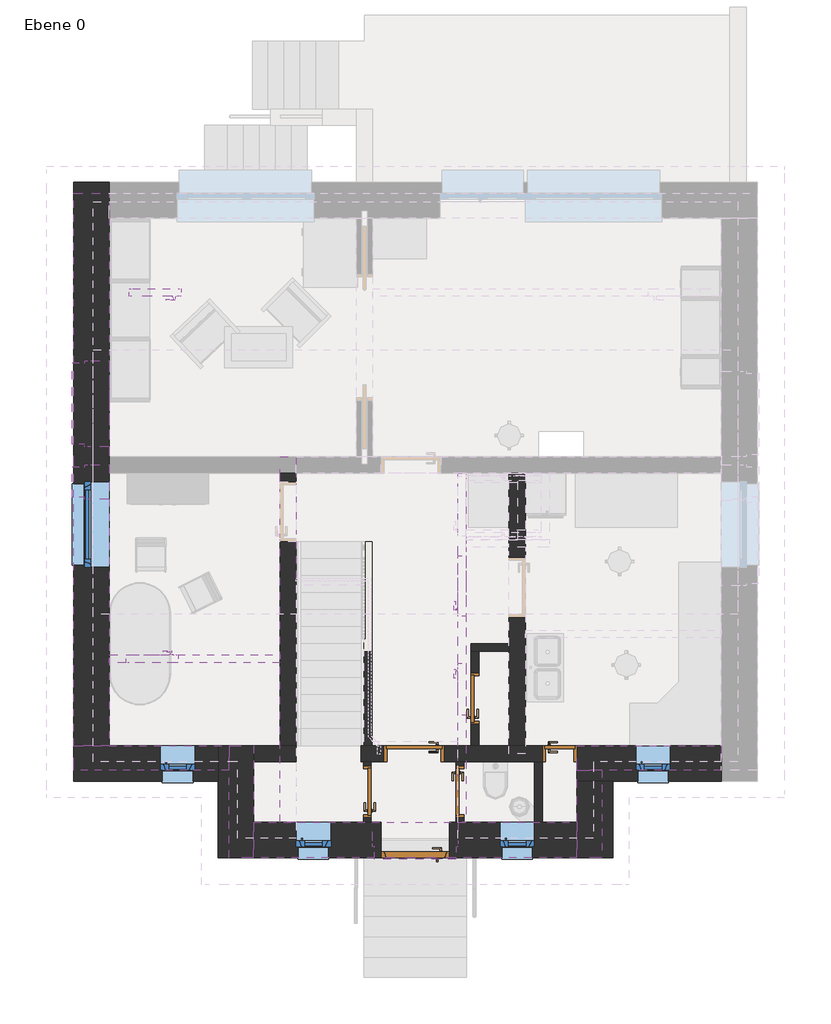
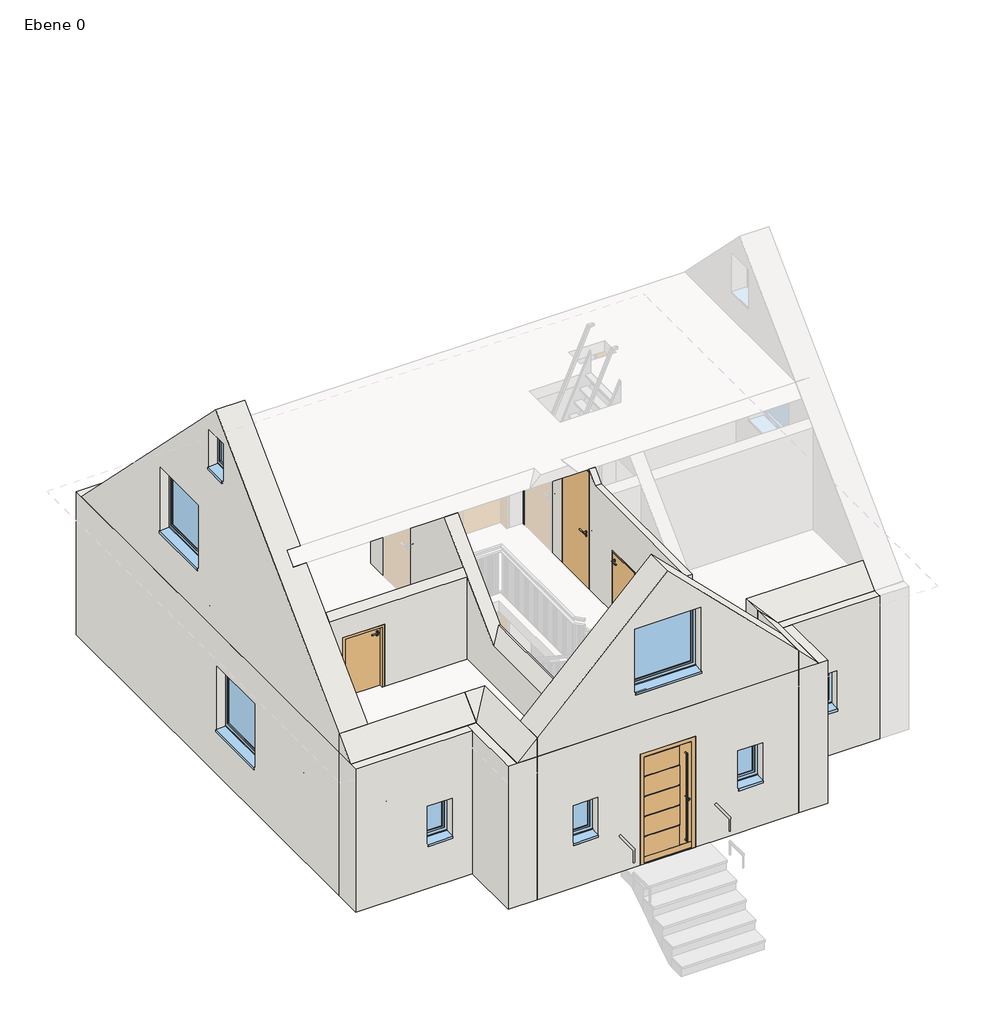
# One storey, part 1 of 3: 25 walls, 10 doors, 8 windows.
"""IFC4 building model written with IfcOpenShell, lengths in millimetres."""

from ifc_helpers import new_model, si_unit, frame, origin, place, context, project, spatial, polyline, outline, extrude, faceted_brep, transform, mapped, element, save
from components import door_d76ddd33, door_2d55e884, door_c0c9e2e8, door_1d4fa7a0, door_ae18e9e7, ml_1010_x_2135_97191e1a, ml_510_x_2137_2d006b58, ml_760_x_1200_513c8107, ml_760_x_1200_4ba6731c, fe_1_tlg_drehkipp_1260_x_1260_6cbcbbed, fe_1_tlg_drehkipp_510_x_760_2ecf23b0

model = new_model("IFC4")

# Units and contexts
model_context = context("Model", 3, world=origin())
ifc_project = project(units=[si_unit("LENGTHUNIT", "METRE", prefix="MILLI")], contexts=[model_context])

# Site, building, storey
site = spatial("IfcSite", under=ifc_project)
building = spatial("IfcBuilding", under=site)
storey = spatial("IfcBuildingStorey", under=building, Name="Ebene 0", Elevation=1000.0)

# Doors
placement = place(None, origin())
door_shape = door_d76ddd33(model_context)
element("IfcDoor", 1, ObjectType="TU DF 1 - Rahmenstock flächenbündig variabel : ML - H - 885 x 2260", at=placement, inside=storey, context=model_context, shape_type="MappedRepresentation", body=[
    mapped(door_shape, transform((3622.5, 2182.5, 1000.0), x_axis=(0.0, 1.0, 0.0), y_axis=(-1.0, 0.0, 0.0), z_axis=(0.0, 0.0, 1.0))),
])
door_2_shape = door_2d55e884(model_context)
element("IfcDoor", 2, ObjectType="TU DF 1 - Rahmenstock flächenbündig variabel : ML - H - 885 x 2260", at=placement, inside=storey, context=model_context, shape_type="MappedRepresentation", body=[
    mapped(door_2_shape, transform((3402.5, 811.4208156, 1000.0), x_axis=(0.0, -1.0, 0.0), y_axis=(1.0, 0.0, 0.0), z_axis=(0.0, 0.0, 1.0))),
])
door_3_shape = door_c0c9e2e8(model_context)
element("IfcDoor", 3, ObjectType="TU DF 1 - Rahmenstock flächenbündig variabel : ML - H - 885 x 2260", at=placement, inside=storey, context=model_context, shape_type="MappedRepresentation", body=[
    mapped(door_3_shape, transform((3432.5, 3837.5, 3750.0), x_axis=(0.0, 1.0, 0.0), y_axis=(-1.0, 0.0, 0.0), z_axis=(0.0, 0.0, 1.0))),
])
door_4_shape = door_1d4fa7a0(model_context)
element("IfcDoor", 4, ObjectType="TU DF 1 - Rahmenstock flächenbündig variabel : ML - H - 885 x 2010", at=placement, inside=storey, context=model_context, shape_type="MappedRepresentation", body=[
    mapped(door_4_shape, transform((2037.5, 811.4208156, 1000.0), x_axis=(0.0, 1.0, 0.0), y_axis=(-1.0, 0.0, 0.0), z_axis=(0.0, 0.0, 1.0))),
])
door_5_shape = door_ae18e9e7(model_context)
element("IfcDoor", 5, ObjectType="TU DF 1 - Rahmenstock flächenbündig variabel : ML - H - 885 x 2010", at=placement, inside=storey, context=model_context, shape_type="MappedRepresentation", body=[
    mapped(door_5_shape, transform((2725.0, 1370.0, 1000.0), x_axis=(-1.0, 0.0, 0.0), y_axis=(0.0, -1.0, 0.0), z_axis=(0.0, 0.0, 1.0))),
])
ml_1010_x_2135_shape = ml_1010_x_2135_97191e1a(model_context)
element("IfcDoor", 6, ObjectType="TU DF 1 - Haustüre : ML - 1010 x 2135", at=placement, inside=storey, context=model_context, shape_type="MappedRepresentation", body=[
    mapped(ml_1010_x_2135_shape, transform((2745.0, 102.5, 1000.0), x_axis=(1.0, 0.0, 0.0), y_axis=(0.0, 1.0, 0.0), z_axis=(0.0, 0.0, 1.0))),
])
ml_510_x_2137_shape = ml_510_x_2137_2d006b58(model_context)
element("IfcDoor", 7, ObjectType="TU DF 1 - Rahmenstock flächenbündig : ML -510 x 2137", at=placement, inside=storey, context=model_context, shape_type="MappedRepresentation", body=[
    mapped(ml_510_x_2137_shape, transform((4870.0, 1370.0, 1000.0), x_axis=(1.0, 0.0, 0.0), y_axis=(0.0, 1.0, 0.0), z_axis=(0.0, 0.0, 1.0))),
])
ml_760_x_1200_shape = ml_760_x_1200_513c8107(model_context)
element("IfcDoor", 8, ObjectType="TU DF 1 - Rahmenstock flächenbündig : ML -760 x 1200", at=placement, inside=storey, context=model_context, shape_type="MappedRepresentation", body=[
    mapped(ml_760_x_1200_shape, transform((-1130.0, 2767.5, 3750.0), x_axis=(-1.0, 0.0, 0.0), y_axis=(0.0, -1.0, 0.0), z_axis=(0.0, 0.0, 1.0))),
])
element("IfcDoor", 9, ObjectType="TU DF 1 - Rahmenstock flächenbündig : ML -760 x 1200", at=placement, inside=storey, context=model_context, shape_type="MappedRepresentation", body=[
    mapped(ml_760_x_1200_shape, transform((3432.5, 2320.0, 3750.0), x_axis=(0.0, -1.0, 0.0), y_axis=(1.0, 0.0, 0.0), z_axis=(0.0, 0.0, 1.0))),
])
ml_760_x_1200_2_shape = ml_760_x_1200_4ba6731c(model_context)
element("IfcDoor", 10, ObjectType="TU DF 1 - Rahmenstock flächenbündig : ML -760 x 1200", at=placement, inside=storey, context=model_context, shape_type="MappedRepresentation", body=[
    mapped(ml_760_x_1200_2_shape, transform((-1085.0, 8157.5, 3750.0), x_axis=(-1.0, 0.0, 0.0), y_axis=(0.0, -1.0, 0.0), z_axis=(0.0, 0.0, 1.0))),
])

# Walls
element("IfcWall", 11, ObjectType="Ziegel+WD hart 365+140+2", at=placement, inside=storey, context=model_context, shape_type="Brep", body=[
    faceted_brep([(365.0, -160.0, 1000.0), (365.0, 365.0, 1000.0), (365.0, 1250.0, 1000.0), (365.0, 1490.0, 1000.0), (365.0, 1490.0, 3550.0), (365.0, 1250.0, 3550.0), (365.0, 365.0, 3550.0), (365.0, 125.0, 3550.0), (365.0, 125.0, 3750.0), (365.0, -160.0, 3750.0), (-160.0, 1490.0, 1000.0), (-160.0, 965.0, 1000.0), (-160.0, -160.0, 1000.0), (-160.0, -160.0, 3750.0), (-160.0, 965.0, 3750.0), (-160.0, 1250.0, 3750.0), (-160.0, 1250.0, 3550.0), (-160.0, 1490.0, 3550.0), (125.0, 125.0, 3750.0), (125.0, 1250.0, 3750.0), (125.0, 1250.0, 3550.0), (125.0, 125.0, 3550.0)], [[[0, 1, 2, 3, 4, 5, 6, 7, 8, 9]], [[10, 11, 12, 13, 14, 15, 16, 17]], [[3, 2, 1, 0, 12, 11, 10]], [[13, 9, 8, 18, 19, 15, 14]], [[0, 9, 13, 12]], [[3, 10, 17, 4]], [[20, 21, 7, 6, 5, 4, 17, 16]], [[21, 20, 19, 18]], [[19, 20, 16, 15]], [[21, 18, 8, 7]]]),
])
element("IfcWall", 12, ObjectType="Ziegel+WD hart 365+140+2", at=placement, inside=storey, context=model_context, shape_type="Brep", body=[
    faceted_brep([(-160.0, 1490.0, 1000.0), (-1760.0, 1490.0, 1000.0), (-2285.0, 1490.0, 1000.0), (-2285.0, 1490.0, 3750.0), (-2000.0, 1490.0, 3750.0), (-2000.0, 1490.0, 3550.0), (-1760.0, 1490.0, 3550.0), (-160.0, 1490.0, 3550.0), (-500.0, 1490.0, 2610.0), (-1010.0, 1490.0, 2610.0), (-1010.0, 1490.0, 1850.0), (-500.0, 1490.0, 1850.0), (-2285.0, 965.0, 1000.0), (-160.0, 965.0, 1000.0), (-160.0, 965.0, 3750.0), (-2285.0, 965.0, 3750.0), (-980.0, 965.0, 1860.0), (-980.0, 965.0, 2580.0), (-530.0, 965.0, 2580.0), (-530.0, 965.0, 1860.0), (-160.0, 1250.0, 3750.0), (-2000.0, 1250.0, 3750.0), (-2285.0, 1125.0, 3750.0), (-500.0, 1125.0, 2610.0), (-1010.0, 1125.0, 2610.0), (-500.0, 1125.0, 1850.0), (-1010.0, 1125.0, 1850.0), (-980.0, 1125.0, 2580.0), (-980.0, 1125.0, 1870.0), (-530.0, 1125.0, 1870.0), (-530.0, 1125.0, 2580.0), (-2000.0, 1250.0, 3550.0), (-160.0, 1250.0, 3550.0)], [[[0, 1, 2, 3, 4, 5, 6, 7], [8, 9, 10, 11]], [[12, 13, 14, 15], [16, 17, 18, 19]], [[2, 1, 0, 13, 12]], [[15, 14, 20, 21, 4, 3, 22]], [[3, 2, 12, 15, 22]], [[23, 24, 9, 8]], [[25, 11, 10, 26]], [[23, 8, 11, 25]], [[9, 24, 26, 10]], [[24, 23, 25, 26], [27, 28, 29, 30]], [[28, 27, 17, 16]], [[29, 28, 16, 19]], [[30, 29, 19, 18]], [[27, 30, 18, 17]], [[5, 31, 32, 7, 6]], [[31, 21, 20, 32]], [[21, 31, 5, 4]], [[13, 0, 7, 32, 20, 14]]]),
])
element("IfcWall", 13, ObjectType="Ziegel+WD hart 365+140+2", at=placement, inside=storey, context=model_context, shape_type="Brep", body=[
    faceted_brep([(-1760.0, 1490.0, 1000.0), (-1760.0, 5500.0, 1000.0), (-1760.0, 5740.0, 1000.0), (-1760.0, 9250.0, 1000.0), (-1760.0, 9775.0, 1000.0), (-1760.0, 9775.0, 3750.0), (-1760.0, 9615.0, 3750.0), (-1760.0, 9490.0, 3750.0), (-1760.0, 9490.0, 3550.0), (-1760.0, 9250.0, 3550.0), (-1760.0, 5740.0, 3550.0), (-1760.0, 5500.0, 3550.0), (-1760.0, 1490.0, 3550.0), (-1760.0, 4115.0, 3110.0), (-1760.0, 5375.0, 3110.0), (-1760.0, 5375.0, 1850.0), (-1760.0, 4115.0, 1850.0), (-2285.0, 9775.0, 1000.0), (-2285.0, 1490.0, 1000.0), (-2285.0, 1490.0, 3750.0), (-2285.0, 9615.0, 3750.0), (-2285.0, 9775.0, 3750.0), (-2285.0, 5345.0, 1860.0), (-2285.0, 5345.0, 3080.0), (-2285.0, 4145.0, 3080.0), (-2285.0, 4145.0, 1860.0), (-2000.0, 1490.0, 3750.0), (-2000.0, 9490.0, 3750.0), (-2000.0, 1490.0, 3550.0), (-2000.0, 9490.0, 3550.0), (-2125.0, 4115.0, 3110.0), (-2125.0, 5375.0, 3110.0), (-2125.0, 4115.0, 1850.0), (-2125.0, 5375.0, 1850.0), (-2125.0, 5345.0, 3080.0), (-2125.0, 5345.0, 1870.0), (-2125.0, 4145.0, 1870.0), (-2125.0, 4145.0, 3080.0)], [[[0, 1, 2, 3, 4, 5, 6, 7, 8, 9, 10, 11, 12], [13, 14, 15, 16]], [[17, 18, 19, 20, 21], [22, 23, 24, 25]], [[4, 3, 2, 1, 0, 18, 17]], [[21, 20, 19, 26, 27, 7, 6, 5]], [[19, 18, 0, 12, 28, 26]], [[5, 4, 17, 21]], [[29, 28, 12, 11, 10, 9, 8]], [[27, 29, 8, 7]], [[29, 27, 26, 28]], [[30, 31, 14, 13]], [[32, 16, 15, 33]], [[30, 13, 16, 32]], [[14, 31, 33, 15]], [[31, 30, 32, 33], [34, 35, 36, 37]], [[35, 34, 23, 22]], [[36, 35, 22, 25]], [[37, 36, 25, 24]], [[34, 37, 24, 23]]]),
])
element("IfcWall", 14, ObjectType="Ziegel+WD hart 365+140+2", at=placement, inside=storey, context=model_context, shape_type="Brep", body=[
    faceted_brep([(7250.0, 1490.0, 1000.0), (5125.0, 1490.0, 1000.0), (5125.0, 1490.0, 3135.0), (5125.0, 1490.0, 3550.0), (7250.0, 1490.0, 3550.0), (6500.0, 1490.0, 2610.0), (5990.0, 1490.0, 2610.0), (5990.0, 1490.0, 1850.0), (6500.0, 1490.0, 1850.0), (5125.0, 965.0, 1000.0), (5650.0, 965.0, 1000.0), (7250.0, 965.0, 1000.0), (7250.0, 965.0, 3750.0), (5650.0, 965.0, 3750.0), (5365.0, 965.0, 3750.0), (5365.0, 965.0, 3550.0), (5125.0, 965.0, 3550.0), (6020.0, 965.0, 1860.0), (6020.0, 965.0, 2580.0), (6470.0, 965.0, 2580.0), (6470.0, 965.0, 1860.0), (7250.0, 1250.0, 3750.0), (5365.0, 1250.0, 3750.0), (7250.0, 1250.0, 3550.0), (6500.0, 1125.0, 2610.0), (5990.0, 1125.0, 2610.0), (6500.0, 1125.0, 1850.0), (5990.0, 1125.0, 1850.0), (6020.0, 1125.0, 2580.0), (6020.0, 1125.0, 1870.0), (6470.0, 1125.0, 1870.0), (6470.0, 1125.0, 2580.0), (5125.0, 1250.0, 3550.0), (5365.0, 1250.0, 3550.0)], [[[0, 1, 2, 3, 4], [5, 6, 7, 8]], [[9, 10, 11, 12, 13, 14, 15, 16], [17, 18, 19, 20]], [[1, 0, 11, 10, 9]], [[14, 13, 12, 21, 22]], [[12, 11, 0, 4, 23, 21]], [[24, 25, 6, 5]], [[26, 8, 7, 27]], [[24, 5, 8, 26]], [[6, 25, 27, 7]], [[25, 24, 26, 27], [28, 29, 30, 31]], [[29, 28, 18, 17]], [[30, 29, 17, 20]], [[31, 30, 20, 19]], [[28, 31, 19, 18]], [[1, 9, 16, 32, 3, 2]], [[15, 33, 23, 4, 3, 32, 16]], [[33, 22, 21, 23]], [[22, 33, 15, 14]]]),
])
element("IfcWall", 15, ObjectType="Ziegel+WD hart 365+140+2", at=placement, inside=storey, context=model_context, shape_type="Brep", body=[
    faceted_brep([(5125.0, 965.0, 1000.0), (5125.0, 365.0, 1000.0), (5125.0, -160.0, 1000.0), (5125.0, -160.0, 3750.0), (5125.0, 125.0, 3750.0), (5125.0, 125.0, 3550.0), (5125.0, 365.0, 3550.0), (5125.0, 965.0, 3550.0), (5650.0, -160.0, 1000.0), (5650.0, 965.0, 1000.0), (5650.0, 965.0, 3750.0), (5650.0, -160.0, 3750.0), (5365.0, 965.0, 3750.0), (5365.0, 125.0, 3750.0), (5365.0, 965.0, 3550.0), (5365.0, 125.0, 3550.0)], [[[0, 1, 2, 3, 4, 5, 6, 7]], [[8, 9, 10, 11]], [[2, 1, 0, 9, 8]], [[11, 10, 12, 13, 4, 3]], [[3, 2, 8, 11]], [[9, 0, 7, 14, 12, 10]], [[5, 15, 14, 7, 6]], [[15, 13, 12, 14]], [[13, 15, 5, 4]]]),
])
element("IfcWall", 16, ObjectType="Ziegel+WD hart 365+140+2", at=placement, inside=storey, context=model_context, shape_type="Brep", body=[
    faceted_brep([(5125.0, 365.0, 1000.0), (3250.0, 365.0, 1000.0), (3250.0, 365.0, 3135.0), (2240.0, 365.0, 3135.0), (2240.0, 365.0, 1000.0), (365.0, 365.0, 1000.0), (365.0, 365.0, 3550.0), (990.0, 365.0, 3550.0), (990.0, 365.0, 3750.0), (3375.0, 365.0, 3750.0), (3375.0, 365.0, 3550.0), (5125.0, 365.0, 3550.0), (1500.0, 365.0, 2610.0), (990.0, 365.0, 2610.0), (990.0, 365.0, 1850.0), (1500.0, 365.0, 1850.0), (4500.0, 365.0, 2610.0), (3990.0, 365.0, 2610.0), (3990.0, 365.0, 1850.0), (4500.0, 365.0, 1850.0), (5125.0, -160.0, 3750.0), (365.0, -160.0, 3750.0), (365.0, -160.0, 1000.0), (2240.0, -160.0, 1000.0), (2240.0, -160.0, 3135.0), (3250.0, -160.0, 3135.0), (3250.0, -160.0, 1000.0), (5125.0, -160.0, 1000.0), (1020.0, -160.0, 1860.0), (1020.0, -160.0, 2580.0), (1470.0, -160.0, 2580.0), (1470.0, -160.0, 1860.0), (4020.0, -160.0, 1860.0), (4020.0, -160.0, 2580.0), (4470.0, -160.0, 2580.0), (4470.0, -160.0, 1860.0), (5125.0, 125.0, 3750.0), (3375.0, 125.0, 3750.0), (990.0, 125.0, 3750.0), (365.0, 125.0, 3750.0), (365.0, 125.0, 3550.0), (5125.0, 125.0, 3550.0), (1500.0, 0.0, 2610.0), (990.0, 0.0, 2610.0), (1500.0, 0.0, 1850.0), (990.0, 0.0, 1850.0), (1020.0, 0.0, 2580.0), (1020.0, 0.0, 1870.0), (1470.0, 0.0, 1870.0), (1470.0, 0.0, 2580.0), (4500.0, 0.0, 2610.0), (3990.0, 0.0, 2610.0), (4500.0, 0.0, 1850.0), (3990.0, 0.0, 1850.0), (4020.0, 0.0, 2580.0), (4020.0, 0.0, 1870.0), (4470.0, 0.0, 1870.0), (4470.0, 0.0, 2580.0), (3375.0, 125.0, 3550.0), (990.0, 125.0, 3550.0)], [[[0, 1, 2, 3, 4, 5, 6, 7, 8, 9, 10, 11], [12, 13, 14, 15], [16, 17, 18, 19]], [[20, 21, 22, 23, 24, 25, 26, 27], [28, 29, 30, 31], [32, 33, 34, 35]], [[0, 27, 26, 1]], [[22, 5, 4, 23]], [[21, 20, 36, 37, 9, 8, 38, 39]], [[5, 22, 21, 39, 40, 6]], [[20, 27, 0, 11, 41, 36]], [[42, 43, 13, 12]], [[44, 15, 14, 45]], [[42, 12, 15, 44]], [[13, 43, 45, 14]], [[43, 42, 44, 45], [46, 47, 48, 49]], [[47, 46, 29, 28]], [[48, 47, 28, 31]], [[49, 48, 31, 30]], [[46, 49, 30, 29]], [[50, 51, 17, 16]], [[52, 19, 18, 53]], [[50, 16, 19, 52]], [[17, 51, 53, 18]], [[51, 50, 52, 53], [54, 55, 56, 57]], [[55, 54, 33, 32]], [[56, 55, 32, 35]], [[57, 56, 35, 34]], [[54, 57, 34, 33]], [[24, 3, 2, 25]], [[25, 2, 1, 26]], [[3, 24, 23, 4]], [[10, 58, 41, 11]], [[40, 59, 7, 6]], [[58, 37, 36, 41]], [[59, 38, 8, 7]], [[37, 58, 10, 9]], [[38, 59, 40, 39]]]),
])
element("IfcWall", 17, ObjectType="Ziegel+WD hart 365+140+2", at=placement, inside=storey, context=model_context, shape_type="Brep", body=[
    faceted_brep([(-1760.0, 1490.0, 3750.0), (-1760.0, 9250.0, 3750.0), (-1760.0, 9490.0, 3750.0), (-1760.0, 9615.0, 3750.0), (-1760.0, 9615.0, 3753.0508653), (-1760.0, 9611.9491347, 3753.0508653), (-1760.0, 9250.0, 4115.0), (-1760.0, 7315.0, 6050.0), (-1760.0, 3425.0, 6050.0), (-1760.0, 1490.0, 4115.0), (-1760.0, 5890.0, 5860.0), (-1760.0, 7150.0, 5860.0), (-1760.0, 7150.0, 4600.0), (-1760.0, 5890.0, 4600.0), (-1760.0, 7115.0, 6250.0), (-1760.0, 5370.0, 7995.0), (-1760.0, 3625.0, 6250.0), (-1760.0, 5115.0, 7510.0), (-1760.0, 5625.0, 7510.0), (-1760.0, 5625.0, 6750.0), (-1760.0, 5115.0, 6750.0), (-2285.0, 9615.0, 3750.0), (-2285.0, 1490.0, 3750.0), (-2285.0, 1490.0, 4115.0), (-2285.0, 5370.0, 7995.0), (-2285.0, 9611.9491347, 3753.0508653), (-2285.0, 9615.0, 3753.0508653), (-2285.0, 7120.0, 4610.0), (-2285.0, 7120.0, 5830.0), (-2285.0, 5920.0, 5830.0), (-2285.0, 5920.0, 4610.0), (-2285.0, 5595.0, 6760.0), (-2285.0, 5595.0, 7480.0), (-2285.0, 5145.0, 7480.0), (-2285.0, 5145.0, 6760.0), (-2000.0, 1490.0, 3750.0), (-2125.0, 5890.0, 5860.0), (-2125.0, 7150.0, 5860.0), (-2125.0, 5890.0, 4600.0), (-2125.0, 7150.0, 4600.0), (-2125.0, 7120.0, 5830.0), (-2125.0, 7120.0, 4620.0), (-2125.0, 5920.0, 4620.0), (-2125.0, 5920.0, 5830.0), (-2000.0, 7315.0, 6050.0), (-2000.0, 3425.0, 6050.0), (-2000.0, 3625.0, 6250.0), (-2000.0, 7115.0, 6250.0), (-2125.0, 5115.0, 7510.0), (-2125.0, 5625.0, 7510.0), (-2125.0, 5115.0, 6750.0), (-2125.0, 5625.0, 6750.0), (-2125.0, 5595.0, 7480.0), (-2125.0, 5595.0, 6770.0), (-2125.0, 5145.0, 6770.0), (-2125.0, 5145.0, 7480.0)], [[[0, 1, 2, 3, 4, 5, 6, 7, 8, 9], [10, 11, 12, 13]], [[14, 15, 16], [17, 18, 19, 20]], [[21, 22, 23, 24, 25, 26], [27, 28, 29, 30], [31, 32, 33, 34]], [[3, 2, 1, 0, 35, 22, 21]], [[0, 9, 23, 22, 35]], [[4, 3, 21, 26]], [[36, 37, 11, 10]], [[38, 13, 12, 39]], [[36, 10, 13, 38]], [[11, 37, 39, 12]], [[37, 36, 38, 39], [40, 41, 42, 43]], [[41, 40, 28, 27]], [[42, 41, 27, 30]], [[43, 42, 30, 29]], [[40, 43, 29, 28]], [[44, 45, 8, 7]], [[46, 47, 14, 16]], [[45, 44, 47, 46]], [[23, 9, 8, 45, 46, 16, 15, 24]], [[25, 24, 15, 14, 47, 44, 7, 6, 5]], [[4, 26, 25, 5]], [[48, 49, 18, 17]], [[50, 20, 19, 51]], [[48, 17, 20, 50]], [[18, 49, 51, 19]], [[49, 48, 50, 51], [52, 53, 54, 55]], [[53, 52, 32, 31]], [[54, 53, 31, 34]], [[55, 54, 34, 33]], [[52, 55, 33, 32]]]),
])
element("IfcWall", 18, ObjectType="Ziegel+WD hart 365+140+2", at=placement, inside=storey, context=model_context, shape_type="Brep", body=[
    faceted_brep([(5125.0, 365.0, 3750.0), (365.0, 365.0, 3750.0), (365.0, 365.0, 4115.0), (2745.0, 365.0, 6495.0), (5125.0, 365.0, 4115.0), (3375.0, 365.0, 5610.0), (2115.0, 365.0, 5610.0), (2115.0, 365.0, 4350.0), (3375.0, 365.0, 4350.0), (5125.0, -160.0, 3750.0), (5125.0, -160.0, 4115.0), (2745.0, -160.0, 6495.0), (365.0, -160.0, 4115.0), (365.0, -160.0, 3750.0), (2145.0, -160.0, 4360.0), (2145.0, -160.0, 5580.0), (3345.0, -160.0, 5580.0), (3345.0, -160.0, 4360.0), (3375.0, 0.0, 5610.0), (2115.0, 0.0, 5610.0), (3375.0, 0.0, 4350.0), (2115.0, 0.0, 4350.0), (2145.0, 0.0, 5580.0), (2145.0, 0.0, 4370.0), (3345.0, 0.0, 4370.0), (3345.0, 0.0, 5580.0)], [[[0, 1, 2, 3, 4], [5, 6, 7, 8]], [[9, 10, 11, 12, 13], [14, 15, 16, 17]], [[1, 0, 9, 13]], [[2, 1, 13, 12]], [[0, 4, 10, 9]], [[18, 19, 6, 5]], [[20, 8, 7, 21]], [[18, 5, 8, 20]], [[6, 19, 21, 7]], [[19, 18, 20, 21], [22, 23, 24, 25]], [[14, 23, 22, 15]], [[23, 14, 17, 24]], [[24, 17, 16, 25]], [[15, 22, 25, 16]], [[4, 3, 11, 10]], [[3, 2, 12, 11]]]),
])
element("IfcWall", 19, ObjectType="Ziegel 115", at=placement, inside=storey, context=model_context, shape_type="Brep", body=[
    faceted_brep([(4125.0, 2990.0, 1000.0), (3565.0, 2990.0, 1000.0), (3565.0, 2990.0, 3550.0), (4125.0, 2990.0, 3550.0), (4125.0, 2875.0, 1000.0), (4125.0, 2875.0, 3550.0), (3680.0, 2875.0, 3550.0), (3565.0, 2875.0, 3550.0), (3565.0, 2875.0, 1000.0), (3680.0, 2875.0, 1000.0)], [[[0, 1, 2, 3]], [[4, 5, 6, 7, 8, 9]], [[1, 0, 4, 9, 8]], [[0, 3, 5, 4]], [[2, 1, 8, 7]], [[3, 2, 7, 6, 5]]]),
])
element("IfcWall", 20, ObjectType="Ziegel 115", at=placement, inside=storey, context=model_context, shape_type="SweptSolid", body=[
    extrude(outline(polyline([(2875.0, 3550.0), (2875.0, 1000.0), (2562.5, 1000.0), (2562.5, 3260.0), (1802.5, 3260.0), (1802.5, 1000.0), (1490.0, 1000.0), (1490.0, 3550.0), (2875.0, 3550.0)])), frame((3565.0, 0.0, 0.0), z_axis=(1.0, 0.0, 0.0), x_axis=(0.0, 1.0, 0.0)), (0.0, 0.0, 1.0), 115.0),
])
element("IfcWall", 21, ObjectType="Ziegel 115", at=placement, inside=storey, context=model_context, shape_type="SweptSolid", body=[
    extrude(outline(polyline([(4500.0, 365.0), (4500.0, 1250.0), (4615.0, 1250.0), (4615.0, 365.0), (4500.0, 365.0)])), frame((0.0, 0.0, 1000.0), z_axis=(0.0, 0.0, 1.0), x_axis=(1.0, 0.0, 0.0)), (0.0, 0.0, 1.0), 2550.0),
])
element("IfcWall", 22, ObjectType="Ziegel 115", at=placement, inside=storey, context=model_context, shape_type="Brep", body=[
    faceted_brep([(3345.0, 365.0, 3550.0), (3345.0, 1250.0, 3550.0), (3345.0, 1250.0, 1000.0), (3345.0, 1191.4208156, 1000.0), (3345.0, 1191.4208156, 3260.0), (3345.0, 431.4208156, 3260.0), (3345.0, 431.4208156, 1000.0), (3345.0, 365.0, 1000.0), (3460.0, 365.0, 3550.0), (3460.0, 365.0, 1000.0), (3460.0, 431.4208156, 1000.0), (3460.0, 431.4208156, 3260.0), (3460.0, 1191.4208156, 3260.0), (3460.0, 1191.4208156, 1000.0), (3460.0, 1250.0, 1000.0), (3460.0, 1250.0, 3550.0), (3375.0, 365.0, 3550.0), (3375.0, 1250.0, 3550.0)], [[[0, 1, 2, 3, 4, 5, 6, 7]], [[8, 9, 10, 11, 12, 13, 14, 15]], [[9, 7, 6, 10]], [[2, 14, 13, 3]], [[0, 7, 9, 8, 16]], [[2, 1, 17, 15, 14]], [[5, 11, 10, 6]], [[11, 5, 4, 12]], [[12, 4, 3, 13]], [[1, 0, 16, 17]], [[8, 15, 17, 16]]]),
])
element("IfcWall", 23, ObjectType="Ziegel 115", at=placement, inside=storey, context=model_context, shape_type="SweptSolid", body=[
    extrude(outline(polyline([(365.0, 3200.0), (1250.0, 3200.0), (1250.0, 1000.0), (1191.4208156, 1000.0), (1191.4208156, 3010.0), (431.4208156, 3010.0), (431.4208156, 1000.0), (365.0, 1000.0), (365.0, 3200.0)])), frame((1980.0, 0.0, 0.0), z_axis=(1.0, 0.0, 0.0), x_axis=(0.0, 1.0, 0.0)), (0.0, 0.0, 1.0), 115.0),
])
element("IfcWall", 24, ObjectType="Ziegel 115", at=placement, inside=storey, context=model_context, shape_type="Brep", body=[
    faceted_brep([(2105.0, 4490.0, 1000.0), (2105.0, 4490.0, 1140.2206905), (2105.0, 1490.0, 3113.0886136), (2105.0, 1490.0, 1000.0), (2105.0, 1901.7647059, 1000.0), (1990.0, 4490.0, 1000.0), (1990.0, 1901.7647059, 1000.0), (1990.0, 1490.0, 1000.0), (1990.0, 1490.0, 3113.0886136), (1990.0, 4490.0, 1140.2206905)], [[[0, 1, 2, 3, 4]], [[5, 6, 7, 8, 9]], [[0, 4, 3, 7, 6, 5]], [[3, 2, 8, 7]], [[1, 0, 5, 9]], [[2, 1, 9, 8]]]),
])
element("IfcWall", 25, ObjectType="Ziegel 115", at=placement, inside=storey, context=model_context, shape_type="Brep", body=[
    faceted_brep([(3375.0, 5500.0, 6050.0), (3375.0, 5500.0, 3750.0), (3375.0, 5452.5, 3750.0), (3375.0, 5452.5, 6010.0), (3375.0, 4567.5, 6010.0), (3375.0, 4567.5, 3750.0), (3375.0, 4280.0, 3750.0), (3375.0, 4280.0, 6010.0), (3375.0, 3395.0, 6010.0), (3375.0, 3395.0, 3750.0), (3375.0, 2700.0, 3750.0), (3375.0, 2700.0, 4950.0), (3375.0, 1940.0, 4950.0), (3375.0, 1940.0, 3750.0), (3375.0, 365.0, 3750.0), (3375.0, 365.0, 5850.0), (3375.0, 3225.0, 5850.0), (3375.0, 3425.0, 6050.0), (3490.0, 5500.0, 3750.0), (3490.0, 5500.0, 6050.0), (3490.0, 4520.0, 6050.0), (3490.0, 4405.0, 6050.0), (3490.0, 3425.0, 6050.0), (3490.0, 3225.0, 5850.0), (3490.0, 365.0, 5850.0), (3490.0, 365.0, 3750.0), (3490.0, 1940.0, 3750.0), (3490.0, 1940.0, 4950.0), (3490.0, 2700.0, 4950.0), (3490.0, 2700.0, 3750.0), (3490.0, 3395.0, 3750.0), (3490.0, 3395.0, 6010.0), (3490.0, 4280.0, 6010.0), (3490.0, 4280.0, 3750.0), (3490.0, 4405.0, 3750.0), (3490.0, 4520.0, 3750.0), (3490.0, 4567.5, 3750.0), (3490.0, 4567.5, 6010.0), (3490.0, 5452.5, 6010.0), (3490.0, 5452.5, 3750.0)], [[[0, 1, 2, 3, 4, 5, 6, 7, 8, 9, 10, 11, 12, 13, 14, 15, 16, 17]], [[18, 19, 20, 21, 22, 23, 24, 25, 26, 27, 28, 29, 30, 31, 32, 33, 34, 35, 36, 37, 38, 39]], [[1, 0, 19, 18]], [[15, 14, 25, 24]], [[38, 3, 2, 39]], [[4, 37, 36, 5]], [[3, 38, 37, 4]], [[2, 1, 18, 39]], [[25, 14, 13, 26]], [[5, 36, 35, 34, 33, 6]], [[9, 30, 29, 10]], [[16, 15, 24, 23]], [[17, 16, 23, 22]], [[32, 7, 6, 33]], [[8, 31, 30, 9]], [[7, 32, 31, 8]], [[19, 0, 17, 22, 21, 20]], [[12, 27, 26, 13]], [[28, 11, 10, 29]], [[27, 12, 11, 28]]]),
])
element("IfcWall", 26, ObjectType="Ziegel 115", at=placement, inside=storey, context=model_context, shape_type="Brep", body=[
    faceted_brep([(-1760.0, 2710.0, 5335.0), (-1760.0, 2710.0, 3750.0), (-1510.0, 2710.0, 3750.0), (-1510.0, 2710.0, 4950.0), (-750.0, 2710.0, 4950.0), (-750.0, 2710.0, 3750.0), (750.0, 2710.0, 3750.0), (750.0, 2710.0, 5335.0), (-1760.0, 2825.0, 3750.0), (-1760.0, 2825.0, 5450.0), (750.0, 2825.0, 5450.0), (750.0, 2825.0, 3750.0), (-750.0, 2825.0, 3750.0), (-750.0, 2825.0, 4950.0), (-1510.0, 2825.0, 4950.0), (-1510.0, 2825.0, 3750.0)], [[[0, 1, 2, 3, 4, 5, 6, 7]], [[8, 9, 10, 11, 12, 13, 14, 15]], [[1, 8, 15, 2]], [[11, 6, 5, 12]], [[1, 0, 9, 8]], [[7, 6, 11, 10]], [[0, 7, 10, 9]], [[14, 3, 2, 15]], [[4, 13, 12, 5]], [[3, 14, 13, 4]]]),
])
element("IfcWall", 27, ObjectType="Ziegel 240", at=placement, inside=storey, context=model_context, shape_type="Brep", body=[
    faceted_brep([(365.0, 1250.0, 1000.0), (985.0, 1250.0, 1000.0), (985.0, 1250.0, 3050.0), (990.0, 1250.0, 3050.0), (990.0, 1250.0, 3550.0), (365.0, 1250.0, 3550.0), (365.0, 1490.0, 1000.0), (365.0, 1490.0, 3550.0), (750.0, 1490.0, 3550.0), (990.0, 1490.0, 3550.0), (990.0, 1490.0, 3050.0), (985.0, 1490.0, 3050.0), (985.0, 1490.0, 1000.0), (750.0, 1490.0, 1000.0)], [[[0, 1, 2, 3, 4, 5]], [[6, 7, 8, 9, 10, 11, 12, 13]], [[1, 0, 6, 13, 12]], [[2, 1, 12, 11]], [[3, 2, 11, 10]], [[0, 5, 7, 6]], [[4, 3, 10, 9]], [[5, 4, 9, 8, 7]]]),
])
element("IfcWall", 28, ObjectType="Ziegel 240", at=placement, inside=storey, context=model_context, shape_type="Brep", body=[
    faceted_brep([(990.0, 5500.0, 1000.0), (990.0, 5500.0, 3550.0), (990.0, 3847.3, 3550.0), (990.0, 1490.0, 3550.0), (990.0, 1490.0, 3050.0), (990.0, 1490.0, 1000.0), (990.0, 4490.0, 1000.0), (990.0, 4490.0, 3260.0), (990.0, 5375.0, 3260.0), (990.0, 5375.0, 1000.0), (750.0, 1490.0, 3550.0), (750.0, 5500.0, 3550.0), (750.0, 5500.0, 1000.0), (750.0, 5375.0, 1000.0), (750.0, 5375.0, 3260.0), (750.0, 4490.0, 3260.0), (750.0, 4490.0, 1000.0), (750.0, 1490.0, 1000.0), (985.0, 1490.0, 1000.0)], [[[0, 1, 2, 3, 4, 5, 6, 7, 8, 9]], [[10, 11, 12, 13, 14, 15, 16, 17]], [[12, 0, 9, 13]], [[5, 18, 17, 16, 6]], [[1, 0, 12, 11]], [[8, 14, 13, 9]], [[15, 7, 6, 16]], [[14, 8, 7, 15]], [[11, 10, 3, 2, 1]], [[17, 18, 5, 4, 3, 10]]]),
])
element("IfcWall", 29, ObjectType="Ziegel 240", at=placement, inside=storey, context=model_context, shape_type="Brep", body=[
    faceted_brep([(4125.0, 5500.0, 3550.0), (4125.0, 5500.0, 1000.0), (4125.0, 4260.0, 1000.0), (4125.0, 4260.0, 3360.0), (4125.0, 3375.0, 3360.0), (4125.0, 3375.0, 1000.0), (4125.0, 2990.0, 1000.0), (4125.0, 2875.0, 1000.0), (4125.0, 1490.0, 1000.0), (4125.0, 1490.0, 3550.0), (4125.0, 2875.0, 3550.0), (4125.0, 2990.0, 3550.0), (4365.0, 5500.0, 1000.0), (4365.0, 5500.0, 3550.0), (4365.0, 1490.0, 3550.0), (4365.0, 1490.0, 1000.0), (4365.0, 3375.0, 1000.0), (4365.0, 3375.0, 3360.0), (4365.0, 4260.0, 3360.0), (4365.0, 4260.0, 1000.0)], [[[0, 1, 2, 3, 4, 5, 6, 7, 8, 9, 10, 11]], [[12, 13, 14, 15, 16, 17, 18, 19]], [[1, 12, 19, 2]], [[15, 8, 7, 6, 5, 16]], [[1, 0, 13, 12]], [[9, 8, 15, 14]], [[4, 17, 16, 5]], [[18, 3, 2, 19]], [[17, 4, 3, 18]], [[0, 11, 10, 9, 14, 13]]]),
])
element("IfcWall", 30, ObjectType="Ziegel 240", at=placement, inside=storey, context=model_context, shape_type="Brep", body=[
    faceted_brep([(990.0, 5375.0, 3750.0), (990.0, 5500.0, 3750.0), (990.0, 5740.0, 3750.0), (990.0, 5740.0, 6050.0), (990.0, 5500.0, 6050.0), (990.0, 3425.0, 6050.0), (990.0, 2085.0, 4710.0), (990.0, 365.0, 4710.0), (990.0, 365.0, 3750.0), (990.0, 4490.0, 3750.0), (990.0, 4490.0, 6010.0), (990.0, 5375.0, 6010.0), (750.0, 5740.0, 3750.0), (750.0, 5375.0, 3750.0), (750.0, 5375.0, 6010.0), (750.0, 4490.0, 6010.0), (750.0, 4490.0, 3750.0), (750.0, 365.0, 3750.0), (750.0, 365.0, 4500.0), (750.0, 1875.0, 4500.0), (750.0, 3425.0, 6050.0), (750.0, 5740.0, 6050.0), (960.0, 2085.0, 4710.0), (960.0, 365.0, 4710.0)], [[[0, 1, 2, 3, 4, 5, 6, 7, 8, 9, 10, 11]], [[12, 13, 14, 15, 16, 17, 18, 19, 20, 21]], [[11, 14, 13, 0]], [[15, 10, 9, 16]], [[14, 11, 10, 15]], [[3, 2, 12, 21]], [[9, 8, 17, 16]], [[2, 1, 0, 13, 12]], [[19, 22, 6, 5, 20]], [[7, 6, 22, 23]], [[8, 7, 23, 18, 17]], [[5, 4, 3, 21, 20]], [[22, 19, 18, 23]]]),
])
element("IfcWall", 31, ObjectType="Ziegel 240", at=placement, inside=storey, context=model_context, shape_type="SweptSolid", body=[
    extrude(outline(polyline([(3050.0, 2105.0), (3050.0, 1947.5), (1000.0, 1947.5), (1000.0, 2282.5), (3010.0, 2282.5), (3010.0, 3167.5), (1000.0, 3167.5), (1000.0, 4615.0), (3135.0, 4615.0), (3135.0, 5125.0), (3550.0, 5125.0), (3550.0, 3375.0), (3550.0, 3227.5), (3330.0, 3227.5), (3330.0, 2105.0), (3050.0, 2105.0)])), frame((0.0, 1250.0, 0.0), z_axis=(0.0, 1.0, 0.0), x_axis=(0.0, 0.0, 1.0)), (0.0, 0.0, 1.0), 240.0),
])
element("IfcWall", 32, ObjectType="Ziegel 365", at=placement, inside=storey, context=model_context, shape_type="Brep", body=[
    faceted_brep([(365.0, -160.0, 3750.0), (365.0, 365.0, 3750.0), (365.0, 1490.0, 3750.0), (365.0, 1490.0, 4115.0), (365.0, 365.0, 4115.0), (365.0, -160.0, 4115.0), (0.0, -160.0, 3750.0), (0.0, -160.0, 3753.0508653), (0.0, 1125.0, 3753.0508653), (0.0, 1128.0508653, 3753.0508653), (0.0, 1490.0, 4115.0), (0.0, 1490.0, 3750.0), (0.0, 1125.0, 3750.0), (3.0508653, -160.0, 3753.0508653), (3.0508653, 1128.0508653, 3753.0508653)], [[[0, 1, 2, 3, 4, 5]], [[6, 7, 8, 9, 10, 11, 12]], [[2, 1, 0, 6, 12, 11]], [[3, 2, 11, 10]], [[0, 5, 13, 7, 6]], [[5, 4, 3, 14, 13]], [[3, 10, 9, 14]], [[9, 8, 7, 13, 14]]]),
])
element("IfcWall", 33, ObjectType="Ziegel 365", at=placement, inside=storey, context=model_context, shape_type="Brep", body=[
    faceted_brep([(0.0, 1490.0, 3750.0), (-1760.0, 1490.0, 3750.0), (-2000.0, 1490.0, 3750.0), (-2285.0, 1490.0, 3750.0), (-2285.0, 1490.0, 4115.0), (-1760.0, 1490.0, 4115.0), (0.0, 1490.0, 4115.0), (0.0, 1125.0, 3750.0), (0.0, 1125.0, 3753.0508653), (-2285.0, 1125.0, 3753.0508653), (-2285.0, 1125.0, 3750.0), (0.0, 1128.0508653, 3753.0508653), (-2285.0, 1128.0508653, 3753.0508653)], [[[0, 1, 2, 3, 4, 5, 6]], [[7, 8, 9, 10]], [[3, 2, 1, 0, 7, 10]], [[0, 6, 11, 8, 7]], [[4, 3, 10, 9, 12]], [[6, 5, 4, 12, 11]], [[12, 9, 8, 11]]]),
])
element("IfcWall", 34, ObjectType="Ziegel 365", at=placement, inside=storey, context=model_context, shape_type="Brep", body=[
    faceted_brep([(7250.0, 1490.0, 3750.0), (5125.0, 1490.0, 3750.0), (5125.0, 1490.0, 4115.0), (7250.0, 1490.0, 4115.0), (7250.0, 1125.0, 3750.0), (7250.0, 1125.0, 3753.0508653), (5490.0, 1125.0, 3753.0508653), (5486.9491347, 1125.0, 3753.0508653), (5125.0, 1125.0, 4115.0), (5125.0, 1125.0, 3750.0), (5490.0, 1125.0, 3750.0), (7250.0, 1128.0508653, 3753.0508653), (5486.9491347, 1128.0508653, 3753.0508653)], [[[0, 1, 2, 3]], [[4, 5, 6, 7, 8, 9, 10]], [[1, 0, 4, 10, 9]], [[0, 3, 11, 5, 4]], [[2, 1, 9, 8]], [[3, 2, 12, 11]], [[2, 8, 7, 12]], [[7, 6, 5, 11, 12]]]),
])
element("IfcWall", 35, ObjectType="Ziegel 365", at=placement, inside=storey, context=model_context, shape_type="Brep", body=[
    faceted_brep([(5125.0, 1125.0, 3750.0), (5125.0, 365.0, 3750.0), (5125.0, -160.0, 3750.0), (5125.0, -160.0, 4115.0), (5125.0, 365.0, 4115.0), (5125.0, 1125.0, 4115.0), (5490.0, 1125.0, 3750.0), (5490.0, 1125.0, 3753.0508653), (5490.0, -160.0, 3753.0508653), (5490.0, -160.0, 3750.0), (5486.9491347, 1125.0, 3753.0508653), (5486.9491347, -160.0, 3753.0508653)], [[[0, 1, 2, 3, 4, 5]], [[6, 7, 8, 9]], [[2, 1, 0, 6, 9]], [[0, 5, 10, 7, 6]], [[3, 2, 9, 8, 11]], [[5, 4, 3, 11, 10]], [[11, 8, 7, 10]]]),
])

# Windows
fe_1_tlg_drehkipp_1260_x_1260_shape = fe_1_tlg_drehkipp_1260_x_1260_6cbcbbed(model_context)
element("IfcWindow", 36, ObjectType="FE 1 tlg - DrehKipp : 1260 x 1260", at=placement, inside=storey, context=model_context, shape_type="MappedRepresentation", body=[
    mapped(fe_1_tlg_drehkipp_1260_x_1260_shape, transform((-2022.5, 6520.0, 3750.0), x_axis=(0.0, 1.0, 0.0), y_axis=(-1.0, 0.0, 0.0), z_axis=(0.0, 0.0, 1.0))),
])
element("IfcWindow", 37, ObjectType="FE 1 tlg - DrehKipp : 1260 x 1260", at=placement, inside=storey, context=model_context, shape_type="MappedRepresentation", body=[
    mapped(fe_1_tlg_drehkipp_1260_x_1260_shape, transform((-2022.5, 4745.0, 1000.0), x_axis=(0.0, 1.0, 0.0), y_axis=(-1.0, 0.0, 0.0), z_axis=(0.0, 0.0, 1.0))),
])
element("IfcWindow", 38, ObjectType="FE 1 tlg - DrehKipp : 1260 x 1260", at=placement, inside=storey, context=model_context, shape_type="MappedRepresentation", body=[
    mapped(fe_1_tlg_drehkipp_1260_x_1260_shape, transform((2745.0, 102.5, 3500.0), x_axis=(-1.0, 0.0, 0.0), y_axis=(0.0, -1.0, 0.0), z_axis=(0.0, 0.0, 1.0))),
])
fe_1_tlg_drehkipp_510_x_760_shape = fe_1_tlg_drehkipp_510_x_760_2ecf23b0(model_context)
element("IfcWindow", 39, ObjectType="FE 1 tlg - DrehKipp : 510 x 760", at=placement, inside=storey, context=model_context, shape_type="MappedRepresentation", body=[
    mapped(fe_1_tlg_drehkipp_510_x_760_shape, transform((-755.0, 1227.5, 1000.0), x_axis=(-1.0, 0.0, 0.0), y_axis=(0.0, -1.0, 0.0), z_axis=(0.0, 0.0, 1.0))),
])
element("IfcWindow", 40, ObjectType="FE 1 tlg - DrehKipp : 510 x 760", at=placement, inside=storey, context=model_context, shape_type="MappedRepresentation", body=[
    mapped(fe_1_tlg_drehkipp_510_x_760_shape, transform((1245.0, 102.5, 1000.0), x_axis=(-1.0, 0.0, 0.0), y_axis=(0.0, -1.0, 0.0), z_axis=(0.0, 0.0, 1.0))),
])
element("IfcWindow", 41, ObjectType="FE 1 tlg - DrehKipp : 510 x 760", at=placement, inside=storey, context=model_context, shape_type="MappedRepresentation", body=[
    mapped(fe_1_tlg_drehkipp_510_x_760_shape, transform((4245.0, 102.5, 1000.0), x_axis=(-1.0, 0.0, 0.0), y_axis=(0.0, -1.0, 0.0), z_axis=(0.0, 0.0, 1.0))),
])
element("IfcWindow", 42, ObjectType="FE 1 tlg - DrehKipp : 510 x 760", at=placement, inside=storey, context=model_context, shape_type="MappedRepresentation", body=[
    mapped(fe_1_tlg_drehkipp_510_x_760_shape, transform((6245.0, 1227.5, 1000.0), x_axis=(-1.0, 0.0, 0.0), y_axis=(0.0, -1.0, 0.0), z_axis=(0.0, 0.0, 1.0))),
])
element("IfcWindow", 43, ObjectType="FE 1 tlg - DrehKipp : 510 x 760", at=placement, inside=storey, context=model_context, shape_type="MappedRepresentation", body=[
    mapped(fe_1_tlg_drehkipp_510_x_760_shape, transform((-2022.5, 5370.0, 5900.0), x_axis=(0.0, 1.0, 0.0), y_axis=(-1.0, 0.0, 0.0), z_axis=(0.0, 0.0, 1.0))),
])

save(model, "model.ifc")
